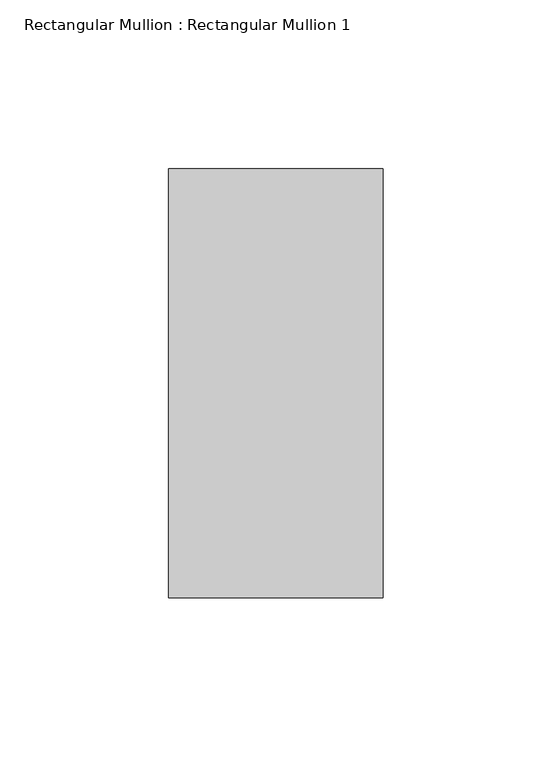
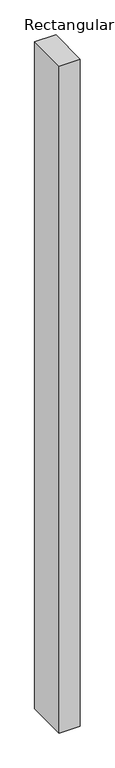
"""IFC4 building model written with IfcOpenShell, lengths in millimetres: member geometry, Rectangular Mullion : Rectangular Mullion 1."""

from ifc_helpers import new_model, si_unit, frame, origin, place, context, project, spatial, polyline, outline, extrude, source, transform, mapped, element, save


def rectangular_mullion_rectangular_mullion_1_ef30733b(model_context):
    return source(origin(), model_context, "Body", "SweptSolid", [
        extrude(outline(polyline([(0.0, 63.5), (0.0, -63.5), (-63.5, -63.5), (-63.5, 63.5), (0.0, 63.5)])), frame((0.0, 0.0, -2116.8895886), z_axis=(0.0, 0.0, 1.0), x_axis=(1.0, 0.0, 0.0)), (0.0, 0.0, 1.0), 2116.8895886),
    ])


if __name__ == "__main__":
    model = new_model("IFC4")
    model_context = context("Model", 3, world=origin())
    ifc_project = project(units=[si_unit("LENGTHUNIT", "METRE", prefix="MILLI")], contexts=[model_context])
    site = spatial("IfcSite", under=ifc_project)
    building = spatial("IfcBuilding", under=site)
    placement = place(None, origin())
    rectangular_mullion_rectangular_mullion_1_shape = rectangular_mullion_rectangular_mullion_1_ef30733b(model_context)
    element("IfcMember", 1, ObjectType="Rectangular Mullion : Rectangular Mullion 1", at=placement, inside=building, context=model_context, shape_type="MappedRepresentation", body=[
        mapped(rectangular_mullion_rectangular_mullion_1_shape, transform((0.0, 0.0, 0.0), x_axis=(1.0, 0.0, 0.0), y_axis=(0.0, 1.0, 0.0), z_axis=(0.0, 0.0, 1.0))),
    ])
    save(model, "model.ifc")
